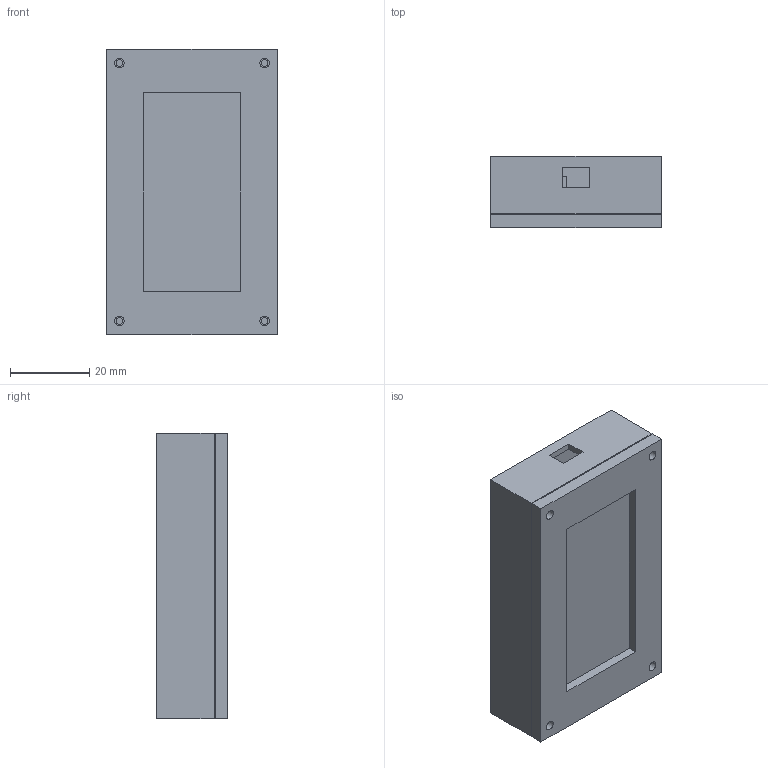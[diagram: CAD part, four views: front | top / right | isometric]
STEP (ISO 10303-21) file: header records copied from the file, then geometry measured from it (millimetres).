
FILE_DESCRIPTION(('Open CASCADE Model'),'2;1');
FILE_NAME('Open CASCADE Shape Model','2026-10-19T02:50:48',('Author'),( 'Open CASCADE'),'Open CASCADE STEP processor 7.9','Open CASCADE 7.9' ,'Unknown');
FILE_SCHEMA(('AUTOMOTIVE_DESIGN { 1 0 10303 214 1 1 1 1 }'));
Length unit declared in the file: millimetre
Products named in the file (9): NFC_ePaper_enclosure_CONCEPT_REV_A; front_bezel; rear_housing; epaper_screen_ENVELOPE; driver_board_VENDOR_REFERENCE; screen_retainer_CONCEPT_1; screen_retainer_CONCEPT_2; screen_retainer_CONCEPT_3; screen_retainer_CONCEPT_4
Assembly tree (8 placements, depth 2):
  NFC_ePaper_enclosure_CONCEPT_REV_A
    front_bezel
    rear_housing
    epaper_screen_ENVELOPE
    driver_board_VENDOR_REFERENCE
    screen_retainer_CONCEPT_1
    screen_retainer_CONCEPT_2
    screen_retainer_CONCEPT_3
    screen_retainer_CONCEPT_4
Bounding box: 43 x 18 x 72 mm (x, y, z)
Volume: 19671.2 mm3; surface area: 26380.7 mm2
Topology: 87 solids, 87 shells, 3084 faces, 8401 edges, 5478 vertices
Faces by surface type: plane 2133, cylinder 949, torus 2
Full cylindrical faces by diameter (mm): 0.5 x2, 1.2 x14, 1.7 x4, 1.709 x28, 2.4 x4, 2.5 x4
Entity records: 210419 total; most frequent: CARTESIAN_POINT 41289, DIRECTION 31967, LINE 21231, VECTOR 21231, ORIENTED_EDGE 16802, PCURVE 16802, DEFINITIONAL_REPRESENTATION 16802, EDGE_CURVE 8401
